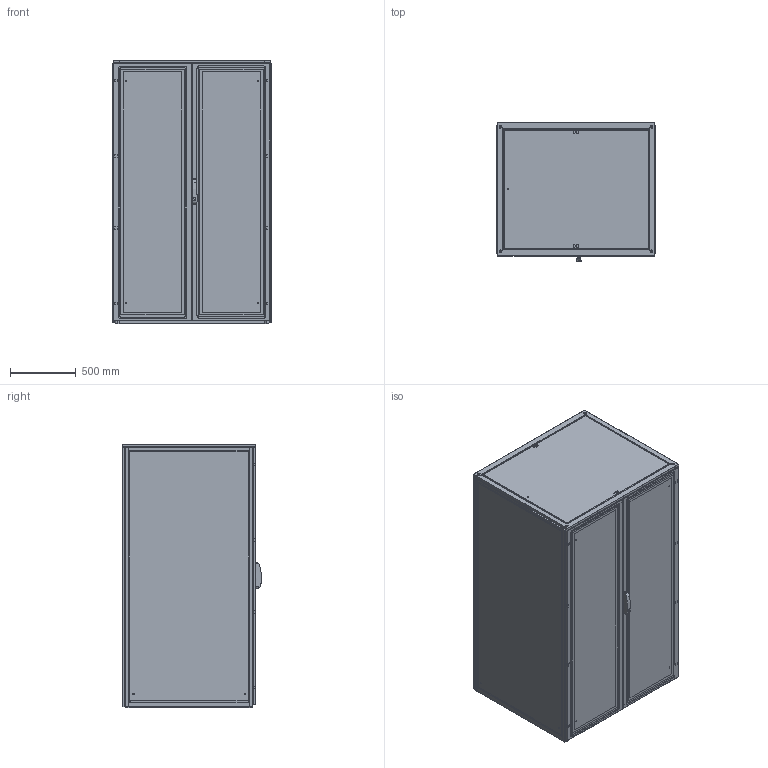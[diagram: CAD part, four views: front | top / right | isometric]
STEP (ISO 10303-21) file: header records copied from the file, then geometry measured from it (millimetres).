
FILE_DESCRIPTION(/* description */ ('STEP AP214'),/* implementation_level */ '2;1');
FILE_NAME(/* name */ 'ENUX122010PR -LOD350',/* time_stamp */ '2025-10-06T09:50:27+02:00',/* author */ ('License CC BY-ND 4.0'),/* organization */ ('CADENAS'),/* preprocessor_version */ 'ST-DEVELOPER v19.3',/* originating_system */ 'PARTsolutions',/* authorisation */ ' ');
FILE_SCHEMA (('AUTOMOTIVE_DESIGN {1 0 10303 214 3 1 1}'));
Length unit declared in the file: millimetre
Products named in the file (11): ENUX122010PR  -LOD350; ENUX122010PR  -LOD3501; ENUX122010PR  -LOD3507; ENUX122010PR  -LOD3502; ENUX122010PR  -LOD35011; ENUX122010PR  -LOD3503; ENUX122010PR  -LOD3508; ENUX122010PR  -LOD3505; ENUX122010PR  -LOD3504; ENUX122010PR  -LOD35010; ENUX122010PR  -LOD3509
Assembly tree (27 placements, depth 2):
  ENUX122010PR  -LOD350
    ENUX122010PR  -LOD3501
    ENUX122010PR  -LOD3507  x2
    ENUX122010PR  -LOD3502
    ENUX122010PR  -LOD35011
    ENUX122010PR  -LOD3503
    ENUX122010PR  -LOD3508
    ENUX122010PR  -LOD3505
    ENUX122010PR  -LOD3504
    ENUX122010PR  -LOD35010  x4
    ENUX122010PR  -LOD3509  x14
Bounding box: 1212 x 1057 x 2008.5 mm (x, y, z)
Volume: 37406154 mm3; surface area: 31618110.8 mm2
Topology: 27 solids, 34 shells, 1968 faces, 5377 edges, 3532 vertices
Faces by surface type: plane 1222, cylinder 696, torus 30, cone 12, sphere 8
Full cylindrical faces by diameter (mm): 6 x15, 9 x13, 12 x4, 14 x2, 17 x2, 28 x2
Entity records: 36662 total; most frequent: CARTESIAN_POINT 6705, DIRECTION 6231, ORIENTED_EDGE 6118, EDGE_CURVE 3059, AXIS2_PLACEMENT_3D 2081, LINE 2069, VECTOR 2069, VERTEX_POINT 2022
